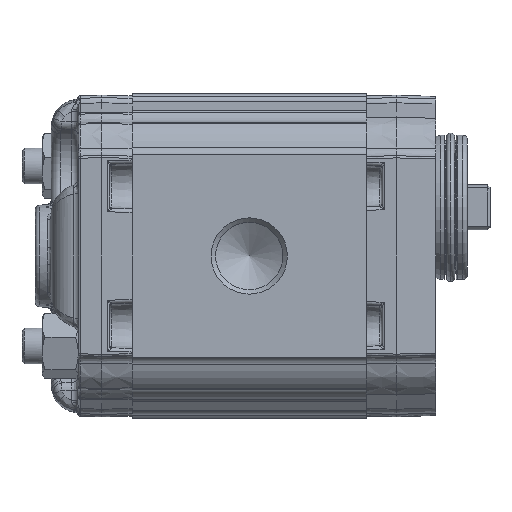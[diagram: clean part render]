
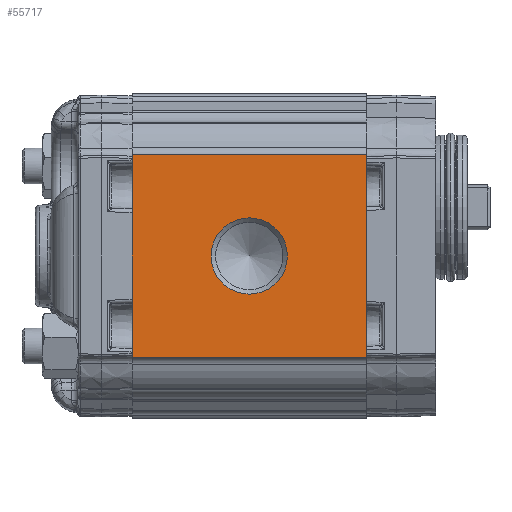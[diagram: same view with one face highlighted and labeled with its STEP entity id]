
A CAD part, left-side view. The second image highlights one B-rep face of the part: STEP entity #55717.
In plain terms, the highlighted planar face has unit normal (-1, 0, 0).
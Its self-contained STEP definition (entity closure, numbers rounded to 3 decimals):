
#3275=PLANE('',#59159);
#4203=LINE('',#97538,#6101);
#4213=LINE('',#97639,#6111);
#4232=LINE('',#97687,#6130);
#4233=LINE('',#97689,#6131);
#6101=VECTOR('',#65955,1000.);
#6111=VECTOR('',#66047,1000.);
#6130=VECTOR('',#66102,1000.);
#6131=VECTOR('',#66105,1000.);
#11795=ORIENTED_EDGE('',*,*,#21207,.F.);
#11796=ORIENTED_EDGE('',*,*,#21305,.T.);
#11797=ORIENTED_EDGE('',*,*,#21277,.T.);
#11798=ORIENTED_EDGE('',*,*,#21306,.T.);
#11799=ORIENTED_EDGE('',*,*,#21227,.F.);
#21207=EDGE_CURVE('',#26232,#26232,#29360,.F.);
#21227=EDGE_CURVE('',#26253,#26254,#4203,.T.);
#21277=EDGE_CURVE('',#26304,#26303,#4213,.T.);
#21305=EDGE_CURVE('',#26253,#26304,#4232,.T.);
#21306=EDGE_CURVE('',#26303,#26254,#4233,.F.);
#26232=VERTEX_POINT('',#97494);
#26253=VERTEX_POINT('',#97537);
#26254=VERTEX_POINT('',#97539);
#26303=VERTEX_POINT('',#97638);
#26304=VERTEX_POINT('',#97640);
#29360=CIRCLE('',#59063,8.475);
#31726=EDGE_LOOP('',(#11795));
#31727=EDGE_LOOP('',(#11796,#11797,#11798,#11799));
#34515=FACE_BOUND('',#31726,.T.);
#34516=FACE_BOUND('',#31727,.T.);
#55717=ADVANCED_FACE('',(#34515,#34516),#3275,.T.);
#59063=AXIS2_PLACEMENT_3D('',#97493,#65912,#65913);
#59159=AXIS2_PLACEMENT_3D('',#97716,#66148,#66149);
#65912=DIRECTION('',(1.,0.,0.));
#65913=DIRECTION('',(0.,0.,-1.));
#65955=DIRECTION('',(0.,0.,1.));
#66047=DIRECTION('',(0.,0.,1.));
#66102=DIRECTION('',(0.,-1.,0.));
#66105=DIRECTION('',(0.,-1.,0.));
#66148=DIRECTION('',(-1.,0.,0.));
#66149=DIRECTION('',(0.,0.,1.));
#97493=CARTESIAN_POINT('',(-33.,26.,0.));
#97494=CARTESIAN_POINT('',(-33.,26.,-8.475));
#97537=CARTESIAN_POINT('',(-33.,52.,-22.5));
#97538=CARTESIAN_POINT('',(-33.,52.,-21.711));
#97539=CARTESIAN_POINT('',(-33.,52.,22.5));
#97638=CARTESIAN_POINT('',(-33.,0.,22.5));
#97639=CARTESIAN_POINT('',(-33.,0.,-21.711));
#97640=CARTESIAN_POINT('',(-33.,0.,-22.5));
#97687=CARTESIAN_POINT('',(-33.,52.,-22.5));
#97689=CARTESIAN_POINT('',(-33.,52.,22.5));
#97716=CARTESIAN_POINT('',(-33.,128.714,48.138));
